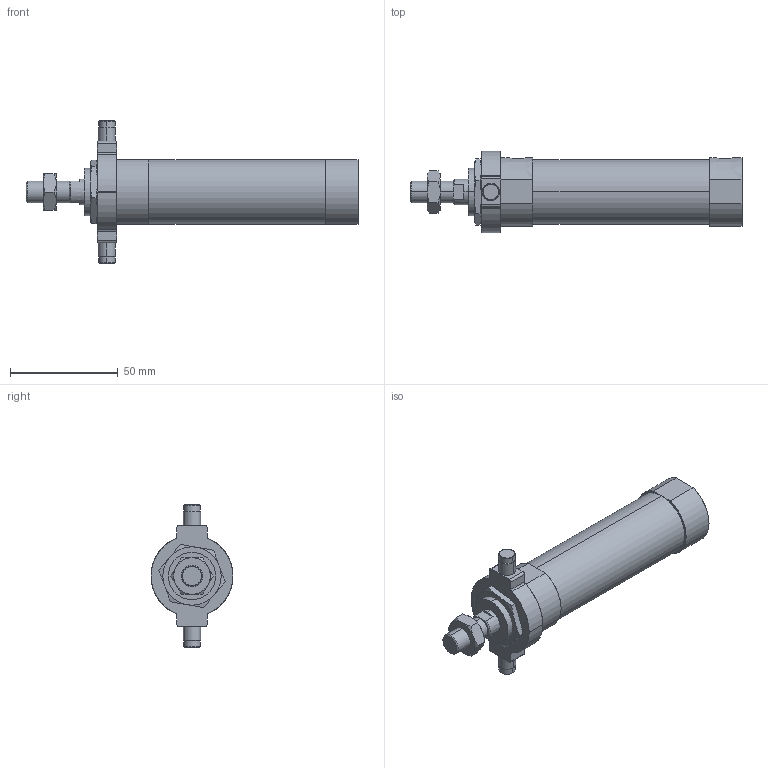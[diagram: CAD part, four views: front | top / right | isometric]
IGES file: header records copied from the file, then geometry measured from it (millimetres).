
Start section: SolidWorks IGES file using analytic representation for surfaces
Global section: file name: C:\Users\Toshiba\Desktop\JGND2-25-50-T.IGS; native system: SolidWorks 2014; preprocessor: SolidWorks 2014; author: Toshiba; date: 160804.103722; units: millimetre
Bounding box: 154 x 38 x 66 mm (x, y, z)
Surface area: 21641 mm2 (no closed solid volume)
Topology: 0 solids, 0 shells, 128 faces, 2096 edges, 2092 vertices
Faces by surface type: bspline 69, revolution 59
